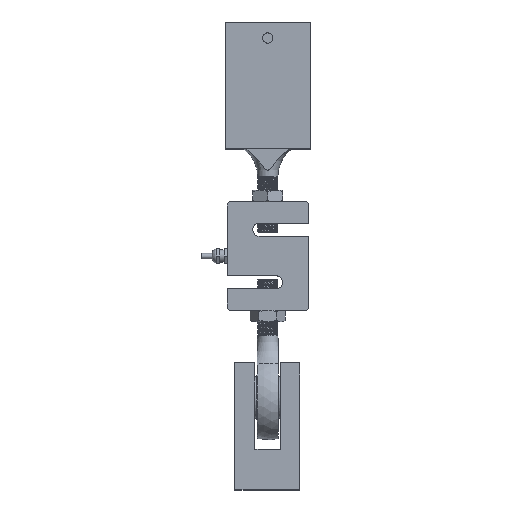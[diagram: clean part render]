
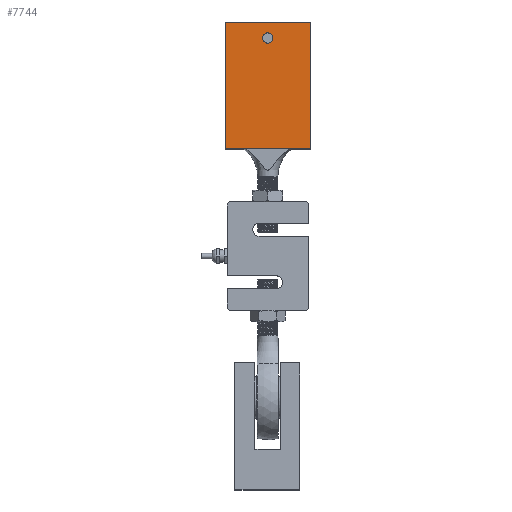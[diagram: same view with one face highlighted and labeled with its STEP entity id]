
A CAD part, top view. The second image highlights one B-rep face of the part: STEP entity #7744.
In plain terms, the highlighted planar face has unit normal (0, 0, 1).
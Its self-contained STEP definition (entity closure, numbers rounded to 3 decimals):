
#793=FACE_BOUND('',#1643,.T.);
#876=PLANE('',#8354);
#1180=FACE_OUTER_BOUND('',#1642,.T.);
#1642=EDGE_LOOP('',(#6275,#6276,#6277,#6278));
#1643=EDGE_LOOP('',(#6279));
#2089=LINE('',#30061,#2513);
#2094=LINE('',#30070,#2518);
#2098=LINE('',#30079,#2522);
#2101=LINE('',#30083,#2525);
#2513=VECTOR('',#9544,10.);
#2518=VECTOR('',#9551,10.);
#2522=VECTOR('',#9559,10.);
#2525=VECTOR('',#9564,10.);
#2747=CIRCLE('',#8339,4.763);
#3271=VERTEX_POINT('',#28209);
#3282=VERTEX_POINT('',#30058);
#3283=VERTEX_POINT('',#30060);
#3286=VERTEX_POINT('',#30068);
#3289=VERTEX_POINT('',#30078);
#4294=EDGE_CURVE('',#3271,#3271,#2747,.F.);
#4319=EDGE_CURVE('',#3283,#3282,#2089,.T.);
#4324=EDGE_CURVE('',#3282,#3286,#2094,.T.);
#4328=EDGE_CURVE('',#3289,#3283,#2098,.T.);
#4331=EDGE_CURVE('',#3286,#3289,#2101,.T.);
#6275=ORIENTED_EDGE('',*,*,#4324,.T.);
#6276=ORIENTED_EDGE('',*,*,#4331,.T.);
#6277=ORIENTED_EDGE('',*,*,#4328,.T.);
#6278=ORIENTED_EDGE('',*,*,#4319,.T.);
#6279=ORIENTED_EDGE('',*,*,#4294,.T.);
#7744=ADVANCED_FACE('',(#1180,#793),#876,.T.);
#8339=AXIS2_PLACEMENT_3D('',#28210,#9510,#9511);
#8354=AXIS2_PLACEMENT_3D('',#30085,#9567,#9568);
#9510=DIRECTION('center_axis',(0.,0.,1.));
#9511=DIRECTION('ref_axis',(1.,0.,0.));
#9544=DIRECTION('',(0.,-1.,0.));
#9551=DIRECTION('',(1.,0.,0.));
#9559=DIRECTION('',(-1.,0.,0.));
#9564=DIRECTION('',(0.,1.,0.));
#9567=DIRECTION('center_axis',(0.,0.,1.));
#9568=DIRECTION('ref_axis',(1.,0.,0.));
#28209=CARTESIAN_POINT('',(-4.762,204.302,30.8));
#28210=CARTESIAN_POINT('Origin',(0.,204.302,
30.8));
#30058=CARTESIAN_POINT('',(-40.,100.302,30.8));
#30060=CARTESIAN_POINT('',(-40.,219.302,30.8));
#30061=CARTESIAN_POINT('',(-40.,189.552,30.8));
#30068=CARTESIAN_POINT('',(40.,100.302,30.8));
#30070=CARTESIAN_POINT('',(-20.,100.302,30.8));
#30078=CARTESIAN_POINT('',(40.,219.302,30.8));
#30079=CARTESIAN_POINT('',(20.,219.302,30.8));
#30083=CARTESIAN_POINT('',(40.,130.052,30.8));
#30085=CARTESIAN_POINT('Origin',(0.,159.802,
30.8));
